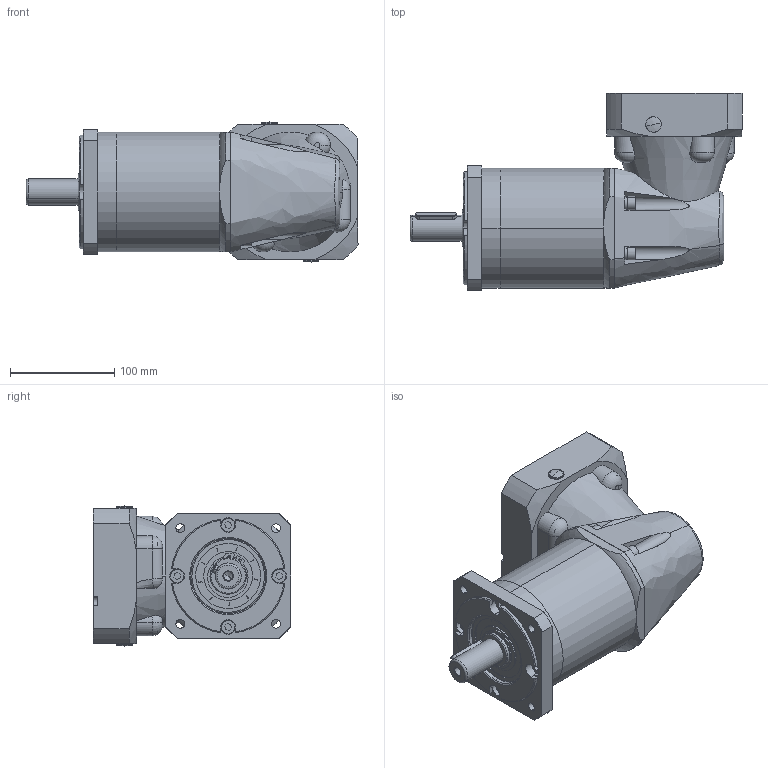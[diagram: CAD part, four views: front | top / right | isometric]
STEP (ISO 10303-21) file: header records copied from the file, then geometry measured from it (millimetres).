
FILE_DESCRIPTION (( 'STEP AP203' ), '1' );
FILE_NAME ('WPF115L3-i-P2-S2-22-58-110-145-M8.step', '2020-03-30T09:02:29', ( '个人用户' ), ( '微软中国' ), 'SwSTEP 2.0', 'SolidWorks 2018', '' );
FILE_SCHEMA (( 'CONFIG_CONTROL_DESIGN' ));
Length unit declared in the file: millimetre
Products named in the file (1): WPF115L3-i-P2-S2-22-58-110-145-M8
Bounding box: 319 x 189.5 x 134.6 mm (x, y, z)
Volume: 2077393.5 mm3; surface area: 433891.4 mm2
Topology: 38 solids, 38 shells, 1208 faces, 2860 edges, 1804 vertices
Faces by surface type: cylinder 423, plane 391, torus 158, cone 148, sphere 78, bspline 10
Entity records: 41073 total; most frequent: CARTESIAN_POINT 12604, DIRECTION 6290, ORIENTED_EDGE 5652, EDGE_CURVE 2826, AXIS2_PLACEMENT_3D 2586, VERTEX_POINT 1804, EDGE_LOOP 1402, CIRCLE 1387
